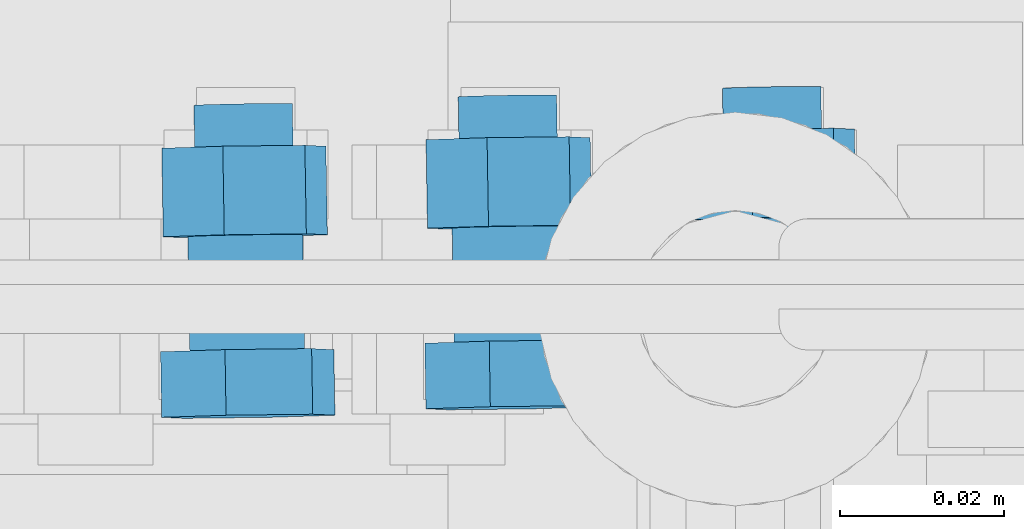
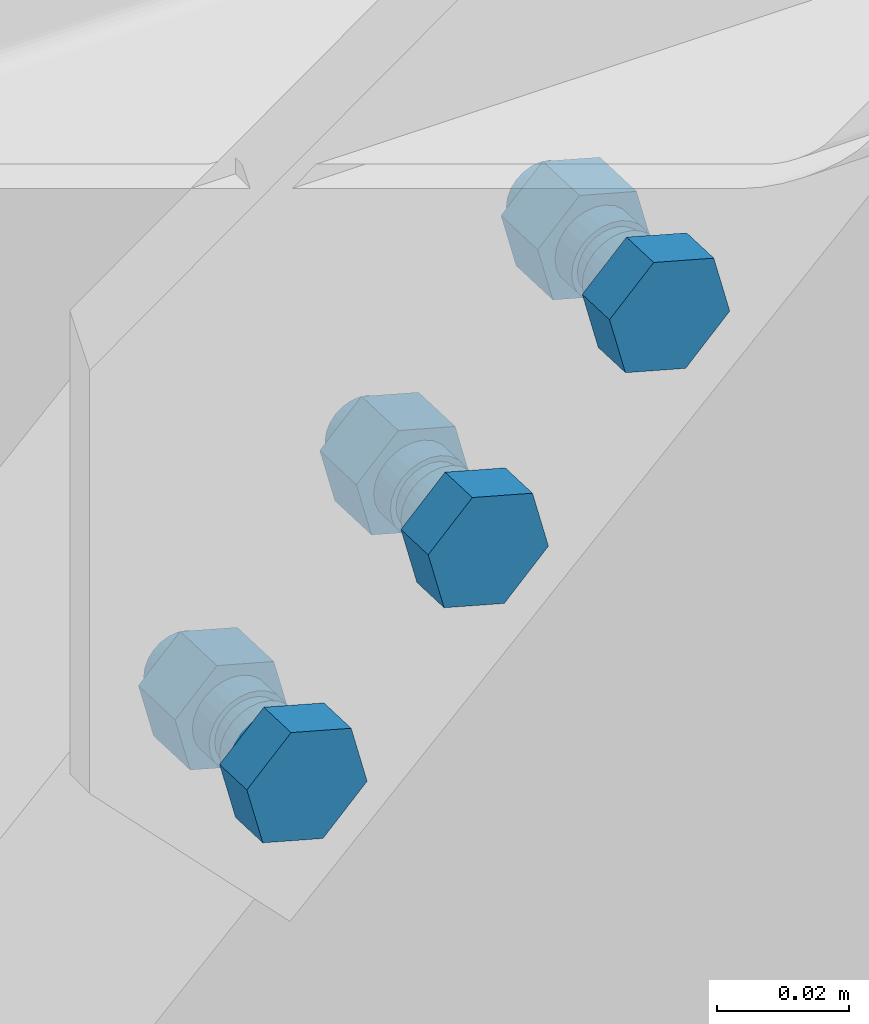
# One storey, part 9 of 21: 1 mechanical fastener.
"""IFC2X3 building model written with IfcOpenShell, lengths in millimetres."""

from ifc_helpers import new_model, si_unit, frame, origin_with_axes, place, context, project, spatial, faceted_brep, element, save


model = new_model("IFC2X3")

# Units and contexts
model_context_1 = context("Model", 3, precision=1e-05, world=origin_with_axes(), identifier="Body")
model_context_2 = context("Model", 3, precision=1e-05, world=origin_with_axes())
ifc_project = project(units=[si_unit("LENGTHUNIT", "METRE", prefix="MILLI"), si_unit("AREAUNIT", "SQUARE_METRE"), si_unit("VOLUMEUNIT", "CUBIC_METRE"), si_unit("MASSUNIT", "GRAM", prefix="KILO"), si_unit("TIMEUNIT", "SECOND"), si_unit("PLANEANGLEUNIT", "RADIAN"), si_unit("SOLIDANGLEUNIT", "STERADIAN"), si_unit("THERMODYNAMICTEMPERATUREUNIT", "DEGREE_CELSIUS"), si_unit("LUMINOUSINTENSITYUNIT", "LUMEN")], contexts=[model_context_1, model_context_2])

# Site, building, storey
site_placement = place(None, origin_with_axes())
site = spatial("IfcSite", under=ifc_project, at=site_placement, Name="Undefined", CompositionType="ELEMENT")
building_placement = place(site_placement, origin_with_axes())
building = spatial("IfcBuilding", under=site, at=building_placement, Name="Undefined", CompositionType="ELEMENT")
storey_placement = place(building_placement, origin_with_axes())
storey = spatial("IfcBuildingStorey", under=building, at=storey_placement, Name="Undefined", CompositionType="ELEMENT")

# Mechanical fastener
mechanical_fastener_placement = place(storey_placement, frame((-55.212892, -69.461259, 3327.1419), z_axis=(0.69826255, -6.8418165e-13, -0.71584175), x_axis=(-0.71565134, -0.023062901, -0.69807684)))
element("IfcMechanicalFastener", 1, at=mechanical_fastener_placement, inside=storey, Name="Bolt assembly", NominalDiameter=12.0, NominalLength=30.0, context=model_context_1, shape_type="Brep", body=[
    faceted_brep([(10.969655, -16.540595, 0.0), (5.4848276, -16.540595, 9.5), (-5.4848276, -16.540595, 9.5), (-10.969655, -16.540595, 0.0), (-5.4848276, -16.540595, -9.5), (5.4848276, -16.540595, -9.5), (5.4848276, -8.5405955, -9.5), (-5.4848276, -8.5405955, -9.5), (-10.969655, -8.5405955, 0.0), (-5.4848276, -8.5405955, 9.5), (5.4848276, -8.5405955, 9.5), (10.969655, -8.5405955, 0.0), (6.0, -8.5405955, 0.0), (5.795555, -8.5405955, 1.5529143), (5.1961524, -8.5405955, 3.0), (4.2426407, -8.5405955, 4.2426407), (3.0, -8.5405955, 5.1961524), (1.5529143, -8.5405955, 5.795555), (-6.2180159e-13, -8.5405955, 6.0), (-1.5529143, -8.5405955, 5.795555), (-3.0, -8.5405955, 5.1961524), (-4.2426407, -8.5405955, 4.2426407), (-5.1961524, -8.5405955, 3.0), (-5.795555, -8.5405955, 1.5529143), (-6.0, -8.5405955, -1.2436032e-12), (-5.795555, -8.5405955, -1.5529143), (-5.1961524, -8.5405955, -3.0), (-4.2426407, -8.5405955, -4.2426407), (-3.0, -8.5405955, -5.1961524), (-1.5529143, -8.5405955, -5.795555), (1.8587434e-12, -8.5405955, -6.0), (1.5529143, -8.5405955, -5.795555), (3.0, -8.5405955, -5.1961524), (4.2426407, -8.5405955, -4.2426407), (5.1961524, -8.5405955, -3.0), (5.795555, -8.5405955, -1.5529143), (5.795555, 21.459405, -1.5529143), (5.1961524, 21.459405, -3.0), (4.2426407, 21.459405, -4.2426407), (3.0, 21.459405, -5.1961524), (1.5529143, 21.459405, -5.795555), (1.8587434e-12, 21.459405, -6.0), (-1.5529143, 21.459405, -5.795555), (-3.0, 21.459405, -5.1961524), (-4.2426407, 21.459405, -4.2426407), (-5.1961524, 21.459405, -3.0), (-5.795555, 21.459405, -1.5529143), (-6.0, 21.459405, -1.2436032e-12), (-5.795555, 21.459405, 1.5529143), (-5.1961524, 21.459405, 3.0), (-4.2426407, 21.459405, 4.2426407), (-3.0, 21.459405, 5.1961524), (-1.5529143, 21.459405, 5.795555), (-6.2180159e-13, 21.459405, 6.0), (1.5529143, 21.459405, 5.795555), (3.0, 21.459405, 5.1961524), (4.2426407, 21.459405, 4.2426407), (5.1961524, 21.459405, 3.0), (5.795555, 21.459405, 1.5529143), (6.0, 21.459405, 0.0), (10.392305, 5.4627129, 0.0), (5.1961524, 5.4627129, 9.0), (-5.1961524, 5.4627129, 9.0), (-10.392305, 5.4627129, 0.0), (-5.1961524, 5.4627129, -9.0), (5.1961524, 5.4627129, -9.0), (5.1961524, 16.262713, -9.0), (-5.1961524, 16.262713, -9.0), (-10.392305, 16.262713, 0.0), (-5.1961524, 16.262713, 9.0), (5.1961524, 16.262713, 9.0), (10.392305, 16.262713, 0.0), (55.969655, -16.540595, 0.0), (50.484828, -16.540595, 9.5), (39.515172, -16.540595, 9.5), (34.030345, -16.540595, 0.0), (39.515172, -16.540595, -9.5), (50.484828, -16.540595, -9.5), (50.484828, -8.5405955, -9.5), (39.515172, -8.5405955, -9.5), (34.030345, -8.5405955, 0.0), (39.515172, -8.5405955, 9.5), (50.484828, -8.5405955, 9.5), (55.969655, -8.5405955, 0.0), (51.0, -8.5405955, 0.0), (50.795555, -8.5405955, 1.5529143), (50.196152, -8.5405955, 3.0), (49.242641, -8.5405955, 4.2426407), (48.0, -8.5405955, 5.1961524), (46.552914, -8.5405955, 5.795555), (45.0, -8.5405955, 6.0), (43.447086, -8.5405955, 5.795555), (42.0, -8.5405955, 5.1961524), (40.757359, -8.5405955, 4.2426407), (39.803848, -8.5405955, 3.0), (39.204445, -8.5405955, 1.5529143), (39.0, -8.5405955, -1.2436032e-12), (39.204445, -8.5405955, -1.5529143), (39.803848, -8.5405955, -3.0), (40.757359, -8.5405955, -4.2426407), (42.0, -8.5405955, -5.1961524), (43.447086, -8.5405955, -5.795555), (45.0, -8.5405955, -6.0), (46.552914, -8.5405955, -5.795555), (48.0, -8.5405955, -5.1961524), (49.242641, -8.5405955, -4.2426407), (50.196152, -8.5405955, -3.0), (50.795555, -8.5405955, -1.5529143), (50.795555, 21.459405, -1.5529143), (50.196152, 21.459405, -3.0), (49.242641, 21.459405, -4.2426407), (48.0, 21.459405, -5.1961524), (46.552914, 21.459405, -5.795555), (45.0, 21.459405, -6.0), (43.447086, 21.459405, -5.795555), (42.0, 21.459405, -5.1961524), (40.757359, 21.459405, -4.2426407), (39.803848, 21.459405, -3.0), (39.204445, 21.459405, -1.5529143), (39.0, 21.459405, -1.2436032e-12), (39.204445, 21.459405, 1.5529143), (39.803848, 21.459405, 3.0), (40.757359, 21.459405, 4.2426407), (42.0, 21.459405, 5.1961524), (43.447086, 21.459405, 5.795555), (45.0, 21.459405, 6.0), (46.552914, 21.459405, 5.795555), (48.0, 21.459405, 5.1961524), (49.242641, 21.459405, 4.2426407), (50.196152, 21.459405, 3.0), (50.795555, 21.459405, 1.5529143), (51.0, 21.459405, 0.0), (55.392305, 5.4627129, 0.0), (50.196152, 5.4627129, 9.0), (39.803848, 5.4627129, 9.0), (34.607695, 5.4627129, 0.0), (39.803848, 5.4627129, -9.0), (50.196152, 5.4627129, -9.0), (50.196152, 16.262713, -9.0), (39.803848, 16.262713, -9.0), (34.607695, 16.262713, 0.0), (39.803848, 16.262713, 9.0), (50.196152, 16.262713, 9.0), (55.392305, 16.262713, 0.0), (100.96966, -16.540595, 0.0), (95.484828, -16.540595, 9.5), (84.515172, -16.540595, 9.5), (79.030345, -16.540595, 0.0), (84.515172, -16.540595, -9.5), (95.484828, -16.540595, -9.5), (95.484828, -8.5405955, -9.5), (84.515172, -8.5405955, -9.5), (79.030345, -8.5405955, 0.0), (84.515172, -8.5405955, 9.5), (95.484828, -8.5405955, 9.5), (100.96966, -8.5405955, 0.0), (96.0, -8.5405955, 0.0), (95.795555, -8.5405955, 1.5529143), (95.196152, -8.5405955, 3.0), (94.242641, -8.5405955, 4.2426407), (93.0, -8.5405955, 5.1961524), (91.552914, -8.5405955, 5.795555), (90.0, -8.5405955, 6.0), (88.447086, -8.5405955, 5.795555), (87.0, -8.5405955, 5.1961524), (85.757359, -8.5405955, 4.2426407), (84.803848, -8.5405955, 3.0), (84.204445, -8.5405955, 1.5529143), (84.0, -8.5405955, -1.2436032e-12), (84.204445, -8.5405955, -1.5529143), (84.803848, -8.5405955, -3.0), (85.757359, -8.5405955, -4.2426407), (87.0, -8.5405955, -5.1961524), (88.447086, -8.5405955, -5.795555), (90.0, -8.5405955, -6.0), (91.552914, -8.5405955, -5.795555), (93.0, -8.5405955, -5.1961524), (94.242641, -8.5405955, -4.2426407), (95.196152, -8.5405955, -3.0), (95.795555, -8.5405955, -1.5529143), (95.795555, 21.459405, -1.5529143), (95.196152, 21.459405, -3.0), (94.242641, 21.459405, -4.2426407), (93.0, 21.459405, -5.1961524), (91.552914, 21.459405, -5.795555), (90.0, 21.459405, -6.0), (88.447086, 21.459405, -5.795555), (87.0, 21.459405, -5.1961524), (85.757359, 21.459405, -4.2426407), (84.803848, 21.459405, -3.0), (84.204445, 21.459405, -1.5529143), (84.0, 21.459405, -1.2436032e-12), (84.204445, 21.459405, 1.5529143), (84.803848, 21.459405, 3.0), (85.757359, 21.459405, 4.2426407), (87.0, 21.459405, 5.1961524), (88.447086, 21.459405, 5.795555), (90.0, 21.459405, 6.0), (91.552914, 21.459405, 5.795555), (93.0, 21.459405, 5.1961524), (94.242641, 21.459405, 4.2426407), (95.196152, 21.459405, 3.0), (95.795555, 21.459405, 1.5529143), (96.0, 21.459405, 0.0), (100.3923, 5.4627129, 0.0), (95.196152, 5.4627129, 9.0), (84.803848, 5.4627129, 9.0), (79.607695, 5.4627129, 0.0), (84.803848, 5.4627129, -9.0), (95.196152, 5.4627129, -9.0), (95.196152, 16.262713, -9.0), (84.803848, 16.262713, -9.0), (79.607695, 16.262713, 0.0), (84.803848, 16.262713, 9.0), (95.196152, 16.262713, 9.0), (100.3923, 16.262713, 0.0)], [[[0, 1, 2, 3, 4, 5]], [[6, 7, 8, 9, 10, 11]], [[0, 11, 10, 1]], [[1, 10, 9, 2]], [[2, 9, 8, 3]], [[3, 8, 7, 4]], [[4, 7, 6, 5]], [[5, 6, 11, 0]], [[12, 13, 14, 15, 16, 17, 18, 19, 20, 21, 22, 23, 24, 25, 26, 27, 28, 29, 30, 31, 32, 33, 34, 35]], [[36, 37, 38, 39, 40, 41, 42, 43, 44, 45, 46, 47, 48, 49, 50, 51, 52, 53, 54, 55, 56, 57, 58, 59]], [[12, 59, 58, 13]], [[13, 58, 57, 14]], [[14, 57, 56, 15]], [[15, 56, 55, 16]], [[16, 55, 54, 17]], [[17, 54, 53, 18]], [[18, 53, 52, 19]], [[19, 52, 51, 20]], [[20, 51, 50, 21]], [[21, 50, 49, 22]], [[22, 49, 48, 23]], [[23, 48, 47, 24]], [[24, 47, 46, 25]], [[25, 46, 45, 26]], [[26, 45, 44, 27]], [[27, 44, 43, 28]], [[28, 43, 42, 29]], [[29, 42, 41, 30]], [[30, 41, 40, 31]], [[31, 40, 39, 32]], [[32, 39, 38, 33]], [[33, 38, 37, 34]], [[34, 37, 36, 35]], [[35, 36, 59, 12]], [[60, 61, 62, 63, 64, 65]], [[66, 67, 68, 69, 70, 71]], [[60, 71, 70, 61]], [[61, 70, 69, 62]], [[62, 69, 68, 63]], [[63, 68, 67, 64]], [[64, 67, 66, 65]], [[65, 66, 71, 60]], [[72, 73, 74, 75, 76, 77]], [[78, 79, 80, 81, 82, 83]], [[72, 83, 82, 73]], [[73, 82, 81, 74]], [[74, 81, 80, 75]], [[75, 80, 79, 76]], [[76, 79, 78, 77]], [[77, 78, 83, 72]], [[84, 85, 86, 87, 88, 89, 90, 91, 92, 93, 94, 95, 96, 97, 98, 99, 100, 101, 102, 103, 104, 105, 106, 107]], [[108, 109, 110, 111, 112, 113, 114, 115, 116, 117, 118, 119, 120, 121, 122, 123, 124, 125, 126, 127, 128, 129, 130, 131]], [[84, 131, 130, 85]], [[85, 130, 129, 86]], [[86, 129, 128, 87]], [[87, 128, 127, 88]], [[88, 127, 126, 89]], [[89, 126, 125, 90]], [[90, 125, 124, 91]], [[91, 124, 123, 92]], [[92, 123, 122, 93]], [[93, 122, 121, 94]], [[94, 121, 120, 95]], [[95, 120, 119, 96]], [[96, 119, 118, 97]], [[97, 118, 117, 98]], [[98, 117, 116, 99]], [[99, 116, 115, 100]], [[100, 115, 114, 101]], [[101, 114, 113, 102]], [[102, 113, 112, 103]], [[103, 112, 111, 104]], [[104, 111, 110, 105]], [[105, 110, 109, 106]], [[106, 109, 108, 107]], [[107, 108, 131, 84]], [[132, 133, 134, 135, 136, 137]], [[138, 139, 140, 141, 142, 143]], [[132, 143, 142, 133]], [[133, 142, 141, 134]], [[134, 141, 140, 135]], [[135, 140, 139, 136]], [[136, 139, 138, 137]], [[137, 138, 143, 132]], [[144, 145, 146, 147, 148, 149]], [[150, 151, 152, 153, 154, 155]], [[144, 155, 154, 145]], [[145, 154, 153, 146]], [[146, 153, 152, 147]], [[147, 152, 151, 148]], [[148, 151, 150, 149]], [[149, 150, 155, 144]], [[156, 157, 158, 159, 160, 161, 162, 163, 164, 165, 166, 167, 168, 169, 170, 171, 172, 173, 174, 175, 176, 177, 178, 179]], [[180, 181, 182, 183, 184, 185, 186, 187, 188, 189, 190, 191, 192, 193, 194, 195, 196, 197, 198, 199, 200, 201, 202, 203]], [[156, 203, 202, 157]], [[157, 202, 201, 158]], [[158, 201, 200, 159]], [[159, 200, 199, 160]], [[160, 199, 198, 161]], [[161, 198, 197, 162]], [[162, 197, 196, 163]], [[163, 196, 195, 164]], [[164, 195, 194, 165]], [[165, 194, 193, 166]], [[166, 193, 192, 167]], [[167, 192, 191, 168]], [[168, 191, 190, 169]], [[169, 190, 189, 170]], [[170, 189, 188, 171]], [[171, 188, 187, 172]], [[172, 187, 186, 173]], [[173, 186, 185, 174]], [[174, 185, 184, 175]], [[175, 184, 183, 176]], [[176, 183, 182, 177]], [[177, 182, 181, 178]], [[178, 181, 180, 179]], [[179, 180, 203, 156]], [[204, 205, 206, 207, 208, 209]], [[210, 211, 212, 213, 214, 215]], [[204, 215, 214, 205]], [[205, 214, 213, 206]], [[206, 213, 212, 207]], [[207, 212, 211, 208]], [[208, 211, 210, 209]], [[209, 210, 215, 204]]]),
    faceted_brep([(7.0, -8.6405955, 0.0), (6.7614808, -8.6405955, 1.8117333), (6.0621778, -8.6405955, 3.5), (4.9497475, -8.6405955, 4.9497475), (3.5, -8.6405955, 6.0621778), (1.8117333, -8.6405955, 6.7614808), (-7.2543519e-13, -8.6405955, 7.0), (-1.8117333, -8.6405955, 6.7614808), (-3.5, -8.6405955, 6.0621778), (-4.9497475, -8.6405955, 4.9497475), (-6.0621778, -8.6405955, 3.5), (-6.7614808, -8.6405955, 1.8117333), (-7.0, -8.6405955, -1.4508704e-12), (-6.7614808, -8.6405955, -1.8117333), (-6.0621778, -8.6405955, -3.5), (-4.9497475, -8.6405955, -4.9497475), (-3.5, -8.6405955, -6.0621778), (-1.8117333, -8.6405955, -6.7614808), (2.168534e-12, -8.6405955, -7.0), (1.8117333, -8.6405955, -6.7614808), (3.5, -8.6405955, -6.0621778), (4.9497475, -8.6405955, -4.9497475), (6.0621778, -8.6405955, -3.5), (6.7614808, -8.6405955, -1.8117333), (6.7614808, -2.5389984, -1.8117333), (6.0621778, -2.5389984, -3.5), (4.9497475, -2.5389984, -4.9497475), (3.5, -2.5389984, -6.0621778), (1.8117333, -2.5389984, -6.7614808), (2.168534e-12, -2.5389984, -7.0), (-1.8117333, -2.5389984, -6.7614808), (-3.5, -2.5389984, -6.0621778), (-4.9497475, -2.5389984, -4.9497475), (-6.0621778, -2.5389984, -3.5), (-6.7614808, -2.5389984, -1.8117333), (-7.0, -2.5389984, -1.4508704e-12), (-6.7614808, -2.5389984, 1.8117333), (-6.0621778, -2.5389984, 3.5), (-4.9497475, -2.5389984, 4.9497475), (-3.5, -2.5389984, 6.0621778), (-1.8117333, -2.5389984, 6.7614808), (-7.2543519e-13, -2.5389984, 7.0), (1.8117333, -2.5389984, 6.7614808), (3.5, -2.5389984, 6.0621778), (4.9497475, -2.5389984, 4.9497475), (6.0621778, -2.5389984, 3.5), (6.7614808, -2.5389984, 1.8117333), (7.0, -2.5389984, 0.0), (7.0, 0.56138264, 0.0), (6.7614808, 0.56138264, 1.8117333), (6.0621778, 0.56138264, 3.5), (4.9497475, 0.56138264, 4.9497475), (3.5, 0.56138264, 6.0621778), (1.8117333, 0.56138264, 6.7614808), (-7.2543519e-13, 0.56138264, 7.0), (-1.8117333, 0.56138264, 6.7614808), (-3.5, 0.56138264, 6.0621778), (-4.9497475, 0.56138264, 4.9497475), (-6.0621778, 0.56138264, 3.5), (-6.7614808, 0.56138264, 1.8117333), (-7.0, 0.56138264, -1.4508704e-12), (-6.7614808, 0.56138264, -1.8117333), (-6.0621778, 0.56138264, -3.5), (-4.9497475, 0.56138264, -4.9497475), (-3.5, 0.56138264, -6.0621778), (-1.8117333, 0.56138264, -6.7614808), (2.168534e-12, 0.56138264, -7.0), (1.8117333, 0.56138264, -6.7614808), (3.5, 0.56138264, -6.0621778), (4.9497475, 0.56138264, -4.9497475), (6.0621778, 0.56138264, -3.5), (6.7614808, 0.56138264, -1.8117333), (6.7614808, 5.5627129, -1.8117333), (6.0621778, 5.5627129, -3.5), (4.9497475, 5.5627129, -4.9497475), (3.5, 5.5627129, -6.0621778), (1.8117333, 5.5627129, -6.7614808), (2.168534e-12, 5.5627129, -7.0), (-1.8117333, 5.5627129, -6.7614808), (-3.5, 5.5627129, -6.0621778), (-4.9497475, 5.5627129, -4.9497475), (-6.0621778, 5.5627129, -3.5), (-6.7614808, 5.5627129, -1.8117333), (-7.0, 5.5627129, -1.4508704e-12), (-6.7614808, 5.5627129, 1.8117333), (-6.0621778, 5.5627129, 3.5), (-4.9497475, 5.5627129, 4.9497475), (-3.5, 5.5627129, 6.0621778), (-1.8117333, 5.5627129, 6.7614808), (-7.2543519e-13, 5.5627129, 7.0), (1.8117333, 5.5627129, 6.7614808), (3.5, 5.5627129, 6.0621778), (4.9497475, 5.5627129, 4.9497475), (6.0621778, 5.5627129, 3.5), (6.7614808, 5.5627129, 1.8117333), (7.0, 5.5627129, 0.0), (52.0, -8.6405955, 0.0), (51.761481, -8.6405955, 1.8117333), (51.062178, -8.6405955, 3.5), (49.949747, -8.6405955, 4.9497475), (48.5, -8.6405955, 6.0621778), (46.811733, -8.6405955, 6.7614808), (45.0, -8.6405955, 7.0), (43.188267, -8.6405955, 6.7614808), (41.5, -8.6405955, 6.0621778), (40.050253, -8.6405955, 4.9497475), (38.937822, -8.6405955, 3.5), (38.238519, -8.6405955, 1.8117333), (38.0, -8.6405955, -1.4508704e-12), (38.238519, -8.6405955, -1.8117333), (38.937822, -8.6405955, -3.5), (40.050253, -8.6405955, -4.9497475), (41.5, -8.6405955, -6.0621778), (43.188267, -8.6405955, -6.7614808), (45.0, -8.6405955, -7.0), (46.811733, -8.6405955, -6.7614808), (48.5, -8.6405955, -6.0621778), (49.949747, -8.6405955, -4.9497475), (51.062178, -8.6405955, -3.5), (51.761481, -8.6405955, -1.8117333), (51.761481, -2.5389984, -1.8117333), (51.062178, -2.5389984, -3.5), (49.949747, -2.5389984, -4.9497475), (48.5, -2.5389984, -6.0621778), (46.811733, -2.5389984, -6.7614808), (45.0, -2.5389984, -7.0), (43.188267, -2.5389984, -6.7614808), (41.5, -2.5389984, -6.0621778), (40.050253, -2.5389984, -4.9497475), (38.937822, -2.5389984, -3.5), (38.238519, -2.5389984, -1.8117333), (38.0, -2.5389984, -1.4508704e-12), (38.238519, -2.5389984, 1.8117333), (38.937822, -2.5389984, 3.5), (40.050253, -2.5389984, 4.9497475), (41.5, -2.5389984, 6.0621778), (43.188267, -2.5389984, 6.7614808), (45.0, -2.5389984, 7.0), (46.811733, -2.5389984, 6.7614808), (48.5, -2.5389984, 6.0621778), (49.949747, -2.5389984, 4.9497475), (51.062178, -2.5389984, 3.5), (51.761481, -2.5389984, 1.8117333), (52.0, -2.5389984, 0.0), (52.0, 0.56138264, 0.0), (51.761481, 0.56138264, 1.8117333), (51.062178, 0.56138264, 3.5), (49.949747, 0.56138264, 4.9497475), (48.5, 0.56138264, 6.0621778), (46.811733, 0.56138264, 6.7614808), (45.0, 0.56138264, 7.0), (43.188267, 0.56138264, 6.7614808), (41.5, 0.56138264, 6.0621778), (40.050253, 0.56138264, 4.9497475), (38.937822, 0.56138264, 3.5), (38.238519, 0.56138264, 1.8117333), (38.0, 0.56138264, -1.4508704e-12), (38.238519, 0.56138264, -1.8117333), (38.937822, 0.56138264, -3.5), (40.050253, 0.56138264, -4.9497475), (41.5, 0.56138264, -6.0621778), (43.188267, 0.56138264, -6.7614808), (45.0, 0.56138264, -7.0), (46.811733, 0.56138264, -6.7614808), (48.5, 0.56138264, -6.0621778), (49.949747, 0.56138264, -4.9497475), (51.062178, 0.56138264, -3.5), (51.761481, 0.56138264, -1.8117333), (51.761481, 5.5627129, -1.8117333), (51.062178, 5.5627129, -3.5), (49.949747, 5.5627129, -4.9497475), (48.5, 5.5627129, -6.0621778), (46.811733, 5.5627129, -6.7614808), (45.0, 5.5627129, -7.0), (43.188267, 5.5627129, -6.7614808), (41.5, 5.5627129, -6.0621778), (40.050253, 5.5627129, -4.9497475), (38.937822, 5.5627129, -3.5), (38.238519, 5.5627129, -1.8117333), (38.0, 5.5627129, -1.4508704e-12), (38.238519, 5.5627129, 1.8117333), (38.937822, 5.5627129, 3.5), (40.050253, 5.5627129, 4.9497475), (41.5, 5.5627129, 6.0621778), (43.188267, 5.5627129, 6.7614808), (45.0, 5.5627129, 7.0), (46.811733, 5.5627129, 6.7614808), (48.5, 5.5627129, 6.0621778), (49.949747, 5.5627129, 4.9497475), (51.062178, 5.5627129, 3.5), (51.761481, 5.5627129, 1.8117333), (52.0, 5.5627129, 0.0), (97.0, -8.6405955, 0.0), (96.761481, -8.6405955, 1.8117333), (96.062178, -8.6405955, 3.5), (94.949747, -8.6405955, 4.9497475), (93.5, -8.6405955, 6.0621778), (91.811733, -8.6405955, 6.7614808), (90.0, -8.6405955, 7.0), (88.188267, -8.6405955, 6.7614808), (86.5, -8.6405955, 6.0621778), (85.050253, -8.6405955, 4.9497475), (83.937822, -8.6405955, 3.5), (83.238519, -8.6405955, 1.8117333), (83.0, -8.6405955, -1.4508704e-12), (83.238519, -8.6405955, -1.8117333), (83.937822, -8.6405955, -3.5), (85.050253, -8.6405955, -4.9497475), (86.5, -8.6405955, -6.0621778), (88.188267, -8.6405955, -6.7614808), (90.0, -8.6405955, -7.0), (91.811733, -8.6405955, -6.7614808), (93.5, -8.6405955, -6.0621778), (94.949747, -8.6405955, -4.9497475), (96.062178, -8.6405955, -3.5), (96.761481, -8.6405955, -1.8117333), (96.761481, -2.5389984, -1.8117333), (96.062178, -2.5389984, -3.5), (94.949747, -2.5389984, -4.9497475), (93.5, -2.5389984, -6.0621778), (91.811733, -2.5389984, -6.7614808), (90.0, -2.5389984, -7.0), (88.188267, -2.5389984, -6.7614808), (86.5, -2.5389984, -6.0621778), (85.050253, -2.5389984, -4.9497475), (83.937822, -2.5389984, -3.5), (83.238519, -2.5389984, -1.8117333), (83.0, -2.5389984, -1.4508704e-12), (83.238519, -2.5389984, 1.8117333), (83.937822, -2.5389984, 3.5), (85.050253, -2.5389984, 4.9497475), (86.5, -2.5389984, 6.0621778), (88.188267, -2.5389984, 6.7614808), (90.0, -2.5389984, 7.0), (91.811733, -2.5389984, 6.7614808), (93.5, -2.5389984, 6.0621778), (94.949747, -2.5389984, 4.9497475), (96.062178, -2.5389984, 3.5), (96.761481, -2.5389984, 1.8117333), (97.0, -2.5389984, 0.0), (97.0, 0.56138264, 0.0), (96.761481, 0.56138264, 1.8117333), (96.062178, 0.56138264, 3.5), (94.949747, 0.56138264, 4.9497475), (93.5, 0.56138264, 6.0621778), (91.811733, 0.56138264, 6.7614808), (90.0, 0.56138264, 7.0), (88.188267, 0.56138264, 6.7614808), (86.5, 0.56138264, 6.0621778), (85.050253, 0.56138264, 4.9497475), (83.937822, 0.56138264, 3.5), (83.238519, 0.56138264, 1.8117333), (83.0, 0.56138264, -1.4508704e-12), (83.238519, 0.56138264, -1.8117333), (83.937822, 0.56138264, -3.5), (85.050253, 0.56138264, -4.9497475), (86.5, 0.56138264, -6.0621778), (88.188267, 0.56138264, -6.7614808), (90.0, 0.56138264, -7.0), (91.811733, 0.56138264, -6.7614808), (93.5, 0.56138264, -6.0621778), (94.949747, 0.56138264, -4.9497475), (96.062178, 0.56138264, -3.5), (96.761481, 0.56138264, -1.8117333), (96.761481, 5.5627129, -1.8117333), (96.062178, 5.5627129, -3.5), (94.949747, 5.5627129, -4.9497475), (93.5, 5.5627129, -6.0621778), (91.811733, 5.5627129, -6.7614808), (90.0, 5.5627129, -7.0), (88.188267, 5.5627129, -6.7614808), (86.5, 5.5627129, -6.0621778), (85.050253, 5.5627129, -4.9497475), (83.937822, 5.5627129, -3.5), (83.238519, 5.5627129, -1.8117333), (83.0, 5.5627129, -1.4508704e-12), (83.238519, 5.5627129, 1.8117333), (83.937822, 5.5627129, 3.5), (85.050253, 5.5627129, 4.9497475), (86.5, 5.5627129, 6.0621778), (88.188267, 5.5627129, 6.7614808), (90.0, 5.5627129, 7.0), (91.811733, 5.5627129, 6.7614808), (93.5, 5.5627129, 6.0621778), (94.949747, 5.5627129, 4.9497475), (96.062178, 5.5627129, 3.5), (96.761481, 5.5627129, 1.8117333), (97.0, 5.5627129, 0.0)], [[[0, 1, 2, 3, 4, 5, 6, 7, 8, 9, 10, 11, 12, 13, 14, 15, 16, 17, 18, 19, 20, 21, 22, 23]], [[24, 25, 26, 27, 28, 29, 30, 31, 32, 33, 34, 35, 36, 37, 38, 39, 40, 41, 42, 43, 44, 45, 46, 47]], [[0, 47, 46, 1]], [[1, 46, 45, 2]], [[2, 45, 44, 3]], [[3, 44, 43, 4]], [[4, 43, 42, 5]], [[5, 42, 41, 6]], [[6, 41, 40, 7]], [[7, 40, 39, 8]], [[8, 39, 38, 9]], [[9, 38, 37, 10]], [[10, 37, 36, 11]], [[11, 36, 35, 12]], [[12, 35, 34, 13]], [[13, 34, 33, 14]], [[14, 33, 32, 15]], [[15, 32, 31, 16]], [[16, 31, 30, 17]], [[17, 30, 29, 18]], [[18, 29, 28, 19]], [[19, 28, 27, 20]], [[20, 27, 26, 21]], [[21, 26, 25, 22]], [[22, 25, 24, 23]], [[23, 24, 47, 0]], [[48, 49, 50, 51, 52, 53, 54, 55, 56, 57, 58, 59, 60, 61, 62, 63, 64, 65, 66, 67, 68, 69, 70, 71]], [[72, 73, 74, 75, 76, 77, 78, 79, 80, 81, 82, 83, 84, 85, 86, 87, 88, 89, 90, 91, 92, 93, 94, 95]], [[48, 95, 94, 49]], [[49, 94, 93, 50]], [[50, 93, 92, 51]], [[51, 92, 91, 52]], [[52, 91, 90, 53]], [[53, 90, 89, 54]], [[54, 89, 88, 55]], [[55, 88, 87, 56]], [[56, 87, 86, 57]], [[57, 86, 85, 58]], [[58, 85, 84, 59]], [[59, 84, 83, 60]], [[60, 83, 82, 61]], [[61, 82, 81, 62]], [[62, 81, 80, 63]], [[63, 80, 79, 64]], [[64, 79, 78, 65]], [[65, 78, 77, 66]], [[66, 77, 76, 67]], [[67, 76, 75, 68]], [[68, 75, 74, 69]], [[69, 74, 73, 70]], [[70, 73, 72, 71]], [[71, 72, 95, 48]], [[96, 97, 98, 99, 100, 101, 102, 103, 104, 105, 106, 107, 108, 109, 110, 111, 112, 113, 114, 115, 116, 117, 118, 119]], [[120, 121, 122, 123, 124, 125, 126, 127, 128, 129, 130, 131, 132, 133, 134, 135, 136, 137, 138, 139, 140, 141, 142, 143]], [[96, 143, 142, 97]], [[97, 142, 141, 98]], [[98, 141, 140, 99]], [[99, 140, 139, 100]], [[100, 139, 138, 101]], [[101, 138, 137, 102]], [[102, 137, 136, 103]], [[103, 136, 135, 104]], [[104, 135, 134, 105]], [[105, 134, 133, 106]], [[106, 133, 132, 107]], [[107, 132, 131, 108]], [[108, 131, 130, 109]], [[109, 130, 129, 110]], [[110, 129, 128, 111]], [[111, 128, 127, 112]], [[112, 127, 126, 113]], [[113, 126, 125, 114]], [[114, 125, 124, 115]], [[115, 124, 123, 116]], [[116, 123, 122, 117]], [[117, 122, 121, 118]], [[118, 121, 120, 119]], [[119, 120, 143, 96]], [[144, 145, 146, 147, 148, 149, 150, 151, 152, 153, 154, 155, 156, 157, 158, 159, 160, 161, 162, 163, 164, 165, 166, 167]], [[168, 169, 170, 171, 172, 173, 174, 175, 176, 177, 178, 179, 180, 181, 182, 183, 184, 185, 186, 187, 188, 189, 190, 191]], [[144, 191, 190, 145]], [[145, 190, 189, 146]], [[146, 189, 188, 147]], [[147, 188, 187, 148]], [[148, 187, 186, 149]], [[149, 186, 185, 150]], [[150, 185, 184, 151]], [[151, 184, 183, 152]], [[152, 183, 182, 153]], [[153, 182, 181, 154]], [[154, 181, 180, 155]], [[155, 180, 179, 156]], [[156, 179, 178, 157]], [[157, 178, 177, 158]], [[158, 177, 176, 159]], [[159, 176, 175, 160]], [[160, 175, 174, 161]], [[161, 174, 173, 162]], [[162, 173, 172, 163]], [[163, 172, 171, 164]], [[164, 171, 170, 165]], [[165, 170, 169, 166]], [[166, 169, 168, 167]], [[167, 168, 191, 144]], [[192, 193, 194, 195, 196, 197, 198, 199, 200, 201, 202, 203, 204, 205, 206, 207, 208, 209, 210, 211, 212, 213, 214, 215]], [[216, 217, 218, 219, 220, 221, 222, 223, 224, 225, 226, 227, 228, 229, 230, 231, 232, 233, 234, 235, 236, 237, 238, 239]], [[192, 239, 238, 193]], [[193, 238, 237, 194]], [[194, 237, 236, 195]], [[195, 236, 235, 196]], [[196, 235, 234, 197]], [[197, 234, 233, 198]], [[198, 233, 232, 199]], [[199, 232, 231, 200]], [[200, 231, 230, 201]], [[201, 230, 229, 202]], [[202, 229, 228, 203]], [[203, 228, 227, 204]], [[204, 227, 226, 205]], [[205, 226, 225, 206]], [[206, 225, 224, 207]], [[207, 224, 223, 208]], [[208, 223, 222, 209]], [[209, 222, 221, 210]], [[210, 221, 220, 211]], [[211, 220, 219, 212]], [[212, 219, 218, 213]], [[213, 218, 217, 214]], [[214, 217, 216, 215]], [[215, 216, 239, 192]], [[240, 241, 242, 243, 244, 245, 246, 247, 248, 249, 250, 251, 252, 253, 254, 255, 256, 257, 258, 259, 260, 261, 262, 263]], [[264, 265, 266, 267, 268, 269, 270, 271, 272, 273, 274, 275, 276, 277, 278, 279, 280, 281, 282, 283, 284, 285, 286, 287]], [[240, 287, 286, 241]], [[241, 286, 285, 242]], [[242, 285, 284, 243]], [[243, 284, 283, 244]], [[244, 283, 282, 245]], [[245, 282, 281, 246]], [[246, 281, 280, 247]], [[247, 280, 279, 248]], [[248, 279, 278, 249]], [[249, 278, 277, 250]], [[250, 277, 276, 251]], [[251, 276, 275, 252]], [[252, 275, 274, 253]], [[253, 274, 273, 254]], [[254, 273, 272, 255]], [[255, 272, 271, 256]], [[256, 271, 270, 257]], [[257, 270, 269, 258]], [[258, 269, 268, 259]], [[259, 268, 267, 260]], [[260, 267, 266, 261]], [[261, 266, 265, 262]], [[262, 265, 264, 263]], [[263, 264, 287, 240]]]),
])

save(model, "model.ifc")
